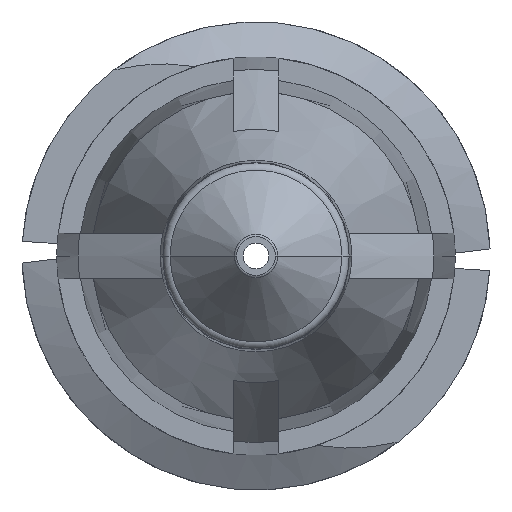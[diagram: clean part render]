
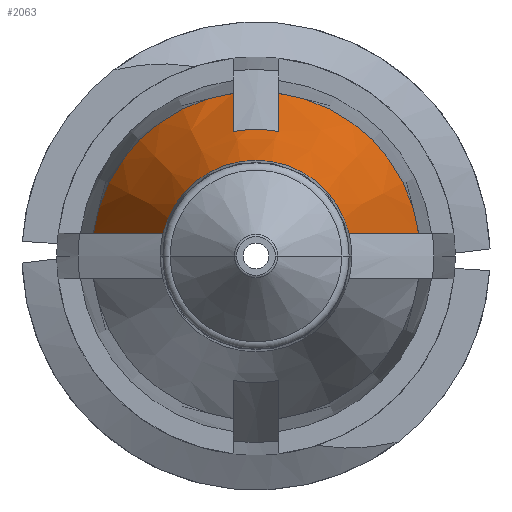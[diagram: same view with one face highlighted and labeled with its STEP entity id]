
A CAD part, front view. The second image highlights one B-rep face of the part: STEP entity #2063.
In plain terms, the highlighted conical face has half-angle 20 degrees and reference radius 2.745 mm.
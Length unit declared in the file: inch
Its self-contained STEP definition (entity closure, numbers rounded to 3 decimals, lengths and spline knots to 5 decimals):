
#2 = CARTESIAN_POINT ( 'NONE',  ( 0.10703, -0.406, 0.015 ) ) ;
#38 = VERTEX_POINT ( 'NONE', #653 ) ;
#55 = CARTESIAN_POINT ( 'NONE',  ( -0.015, -0.45131, 0.09036 ) ) ;
#89 = CARTESIAN_POINT ( 'NONE',  ( -0.015, -0.47395, 0.08198 ) ) ;
#90 = AXIS2_PLACEMENT_3D ( 'NONE', #2208, #1900, #1354 ) ;
#169 = B_SPLINE_CURVE_WITH_KNOTS ( 'NONE', 3,
 ( #1395, #1658, #1083, #2923 ),
 .UNSPECIFIED., .F., .F.,
 ( 4, 4 ),
 ( 0.00247, 0.00431 ),
 .UNSPECIFIED. ) ;
#176 = CARTESIAN_POINT ( 'NONE',  ( 0., -0.406, 0. ) ) ;
#233 = CARTESIAN_POINT ( 'NONE',  ( 0.06119, -0.52985, 0.015 ) ) ;
#294 = DIRECTION ( 'NONE',  ( 0., 1., 0. ) ) ;
#428 = CARTESIAN_POINT ( 'NONE',  ( 0.015, -0.406, 0.10703 ) ) ;
#437 = VERTEX_POINT ( 'NONE', #428 ) ;
#473 = CARTESIAN_POINT ( 'NONE',  ( 0.07664, -0.48863, 0.015 ) ) ;
#488 = VERTEX_POINT ( 'NONE', #2 ) ;
#539 = AXIS2_PLACEMENT_3D ( 'NONE', #785, #2460, #3131 ) ;
#612 = CARTESIAN_POINT ( 'NONE',  ( 0., -0.52985, 0. ) ) ;
#641 = VERTEX_POINT ( 'NONE', #2967 ) ;
#653 = CARTESIAN_POINT ( 'NONE',  ( 0.06119, -0.52985, 0.015 ) ) ;
#785 = CARTESIAN_POINT ( 'NONE',  ( 0., -0.406, 0. ) ) ;
#786 = ORIENTED_EDGE ( 'NONE', *, *, #2195, .F. ) ;
#795 = CARTESIAN_POINT ( 'NONE',  ( -0.06119, -0.52985, 0.015 ) ) ;
#819 = EDGE_CURVE ( 'NONE', #1302, #437, #169, .T. ) ;
#878 = AXIS2_PLACEMENT_3D ( 'NONE', #2502, #1991, #3020 ) ;
#889 = EDGE_CURVE ( 'NONE', #2880, #1302, #3008, .T. ) ;
#898 = CARTESIAN_POINT ( 'NONE',  ( -0.015, -0.406, 0.10703 ) ) ;
#905 = CARTESIAN_POINT ( 'NONE',  ( 0.015, -0.47395, 0.08198 ) ) ;
#928 = CIRCLE ( 'NONE', #2476, 0.10808 ) ;
#974 = VERTEX_POINT ( 'NONE', #1711 ) ;
#994 = ORIENTED_EDGE ( 'NONE', *, *, #819, .F. ) ;
#1077 = CARTESIAN_POINT ( 'NONE',  ( -0.09185, -0.44732, 0.015 ) ) ;
#1083 = CARTESIAN_POINT ( 'NONE',  ( 0.015, -0.42866, 0.0987 ) ) ;
#1159 = CIRCLE ( 'NONE', #1813, 0.063 ) ;
#1161 = ORIENTED_EDGE ( 'NONE', *, *, #2403, .F. ) ;
#1302 = VERTEX_POINT ( 'NONE', #905 ) ;
#1354 = DIRECTION ( 'NONE',  ( 1., 0., 0. ) ) ;
#1395 = CARTESIAN_POINT ( 'NONE',  ( 0.015, -0.47395, 0.08198 ) ) ;
#1506 = DIRECTION ( 'NONE',  ( -1., 0., 0. ) ) ;
#1559 = B_SPLINE_CURVE_WITH_KNOTS ( 'NONE', 3,
 ( #795, #2898, #1077, #3229 ),
 .UNSPECIFIED., .F., .F.,
 ( 4, 4 ),
 ( 0.00282, 0.00617 ),
 .UNSPECIFIED. ) ;
#1562 = EDGE_LOOP ( 'NONE', ( #1847, #1887, #2843, #2692, #994, #1764, #1161, #786 ) ) ;
#1582 = CARTESIAN_POINT ( 'NONE',  ( 0.09185, -0.44732, 0.015 ) ) ;
#1658 = CARTESIAN_POINT ( 'NONE',  ( 0.015, -0.45131, 0.09036 ) ) ;
#1685 = B_SPLINE_CURVE_WITH_KNOTS ( 'NONE', 3,
 ( #233, #473, #1582, #3349 ),
 .UNSPECIFIED., .F., .F.,
 ( 4, 4 ),
 ( 0.00282, 0.00617 ),
 .UNSPECIFIED. ) ;
#1711 = CARTESIAN_POINT ( 'NONE',  ( -0.06119, -0.52985, 0.015 ) ) ;
#1764 = ORIENTED_EDGE ( 'NONE', *, *, #889, .F. ) ;
#1813 = AXIS2_PLACEMENT_3D ( 'NONE', #612, #2712, #2284 ) ;
#1847 = ORIENTED_EDGE ( 'NONE', *, *, #3336, .F. ) ;
#1887 = ORIENTED_EDGE ( 'NONE', *, *, #2152, .T. ) ;
#1900 = DIRECTION ( 'NONE',  ( 0., 1., 0. ) ) ;
#1991 = DIRECTION ( 'NONE',  ( 0., 1., 0. ) ) ;
#2063 = ADVANCED_FACE ( 'NONE', ( #3382 ), #3242, .T. ) ;
#2152 = EDGE_CURVE ( 'NONE', #974, #38, #1159, .T. ) ;
#2195 = EDGE_CURVE ( 'NONE', #641, #2303, #928, .T. ) ;
#2208 = CARTESIAN_POINT ( 'NONE',  ( 0., -0.47395, 0. ) ) ;
#2284 = DIRECTION ( 'NONE',  ( -1., 0., 0. ) ) ;
#2303 = VERTEX_POINT ( 'NONE', #898 ) ;
#2403 = EDGE_CURVE ( 'NONE', #2303, #2880, #2917, .T. ) ;
#2452 = CARTESIAN_POINT ( 'NONE',  ( -0.015, -0.406, 0.10703 ) ) ;
#2460 = DIRECTION ( 'NONE',  ( 0., 1., 0. ) ) ;
#2476 = AXIS2_PLACEMENT_3D ( 'NONE', #176, #294, #1506 ) ;
#2493 = EDGE_CURVE ( 'NONE', #437, #488, #2747, .T. ) ;
#2502 = CARTESIAN_POINT ( 'NONE',  ( 0., -0.406, 0. ) ) ;
#2692 = ORIENTED_EDGE ( 'NONE', *, *, #2493, .F. ) ;
#2705 = CARTESIAN_POINT ( 'NONE',  ( -0.015, -0.42866, 0.0987 ) ) ;
#2712 = DIRECTION ( 'NONE',  ( 0., 1., 0. ) ) ;
#2747 = CIRCLE ( 'NONE', #878, 0.10808 ) ;
#2843 = ORIENTED_EDGE ( 'NONE', *, *, #2945, .T. ) ;
#2880 = VERTEX_POINT ( 'NONE', #3078 ) ;
#2898 = CARTESIAN_POINT ( 'NONE',  ( -0.07664, -0.48863, 0.015 ) ) ;
#2917 = B_SPLINE_CURVE_WITH_KNOTS ( 'NONE', 3,
 ( #2452, #2705, #55, #89 ),
 .UNSPECIFIED., .F., .F.,
 ( 4, 4 ),
 ( 0.00343, 0.00527 ),
 .UNSPECIFIED. ) ;
#2923 = CARTESIAN_POINT ( 'NONE',  ( 0.015, -0.406, 0.10703 ) ) ;
#2945 = EDGE_CURVE ( 'NONE', #38, #488, #1685, .T. ) ;
#2967 = CARTESIAN_POINT ( 'NONE',  ( -0.10703, -0.406, 0.015 ) ) ;
#3008 = CIRCLE ( 'NONE', #90, 0.08335 ) ;
#3020 = DIRECTION ( 'NONE',  ( -1., 0., 0. ) ) ;
#3078 = CARTESIAN_POINT ( 'NONE',  ( -0.015, -0.47395, 0.08198 ) ) ;
#3131 = DIRECTION ( 'NONE',  ( -1., 0., 0. ) ) ;
#3229 = CARTESIAN_POINT ( 'NONE',  ( -0.10703, -0.406, 0.015 ) ) ;
#3242 = CONICAL_SURFACE ( 'NONE', #539, 0.10808, 0.349 ) ;
#3336 = EDGE_CURVE ( 'NONE', #974, #641, #1559, .T. ) ;
#3349 = CARTESIAN_POINT ( 'NONE',  ( 0.10703, -0.406, 0.015 ) ) ;
#3382 = FACE_OUTER_BOUND ( 'NONE', #1562, .T. ) ;
